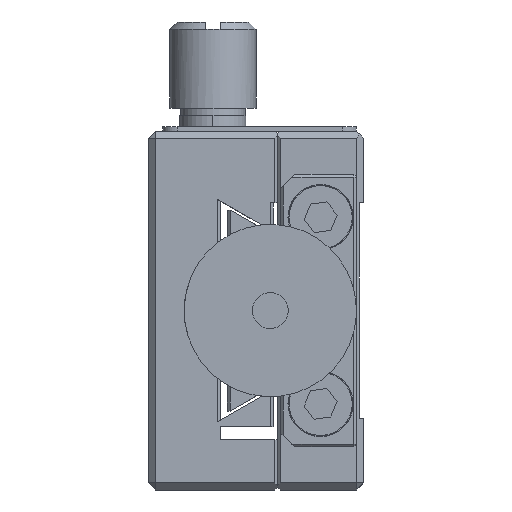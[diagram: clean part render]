
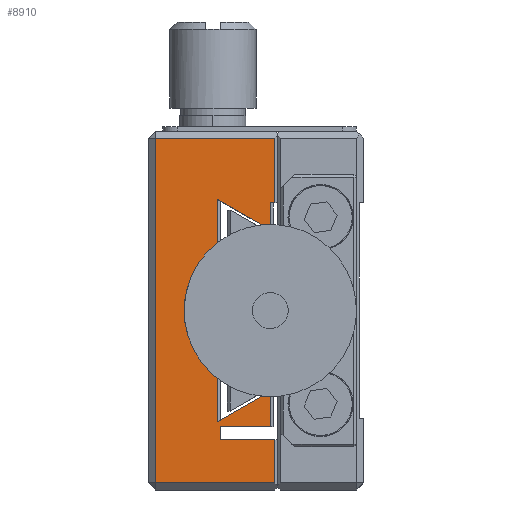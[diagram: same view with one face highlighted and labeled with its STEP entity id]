
A CAD part, left-side view. The second image highlights one B-rep face of the part: STEP entity #8910.
In plain terms, the highlighted planar face has unit normal (-1, 0, 0).
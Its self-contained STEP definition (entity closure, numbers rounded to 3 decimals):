
#412 = EDGE_LOOP ( 'NONE', ( #7363, #1645, #1795, #2207, #2099, #2304, #2128, #2126, #7227, #7311, #1778, #7495, #7222, #1732 ) ) ;
#706 = AXIS2_PLACEMENT_3D ( 'NONE', #5018, #5386, #5385 ) ;
#1497 = VERTEX_POINT ( 'NONE', #4822 ) ;
#1498 = VERTEX_POINT ( 'NONE', #4559 ) ;
#1532 = VERTEX_POINT ( 'NONE', #4561 ) ;
#1583 = VERTEX_POINT ( 'NONE', #4547 ) ;
#1645 = ORIENTED_EDGE ( 'NONE', *, *, #10647, .T. ) ;
#1672 = VERTEX_POINT ( 'NONE', #4600 ) ;
#1732 = ORIENTED_EDGE ( 'NONE', *, *, #10615, .T. ) ;
#1778 = ORIENTED_EDGE ( 'NONE', *, *, #10616, .F. ) ;
#1795 = ORIENTED_EDGE ( 'NONE', *, *, #10873, .F. ) ;
#2099 = ORIENTED_EDGE ( 'NONE', *, *, #10739, .F. ) ;
#2126 = ORIENTED_EDGE ( 'NONE', *, *, #11017, .T. ) ;
#2128 = ORIENTED_EDGE ( 'NONE', *, *, #11016, .T. ) ;
#2207 = ORIENTED_EDGE ( 'NONE', *, *, #11020, .T. ) ;
#2304 = ORIENTED_EDGE ( 'NONE', *, *, #11019, .T. ) ;
#2582 = CARTESIAN_POINT ( 'NONE',  ( -18.252, 10.147, -12. ) ) ;
#2654 = CARTESIAN_POINT ( 'NONE',  ( -18.252, 1.847, 12. ) ) ;
#2668 = CARTESIAN_POINT ( 'NONE',  ( -18.252, 2.147, -8.1 ) ) ;
#2865 = CARTESIAN_POINT ( 'NONE',  ( -18.252, 5.847, -7.752 ) ) ;
#2922 = CARTESIAN_POINT ( 'NONE',  ( -18.252, 1.847, -9. ) ) ;
#2924 = CARTESIAN_POINT ( 'NONE',  ( -18.252, 5.647, -9. ) ) ;
#2931 = CARTESIAN_POINT ( 'NONE',  ( -18.252, 5.647, -8.1 ) ) ;
#2936 = CARTESIAN_POINT ( 'NONE',  ( -18.252, 2.147, -5.615 ) ) ;
#2994 = CARTESIAN_POINT ( 'NONE',  ( -18.252, 10.147, 12. ) ) ;
#3307 = LINE ( 'NONE', #12405, #3337 ) ;
#3337 = VECTOR ( 'NONE', #12400, 1000. ) ;
#3388 = VECTOR ( 'NONE', #11643, 1000. ) ;
#3395 = FACE_OUTER_BOUND ( 'NONE', #412, .T. ) ;
#3947 = LINE ( 'NONE', #11653, #3388 ) ;
#4145 = LINE ( 'NONE', #12219, #4177 ) ;
#4148 = LINE ( 'NONE', #12206, #4166 ) ;
#4166 = VECTOR ( 'NONE', #12204, 1000. ) ;
#4177 = VECTOR ( 'NONE', #12203, 1000. ) ;
#4186 = VECTOR ( 'NONE', #11758, 1000. ) ;
#4210 = LINE ( 'NONE', #11819, #4186 ) ;
#4547 = CARTESIAN_POINT ( 'NONE',  ( -18.252, 1.847, -12. ) ) ;
#4559 = CARTESIAN_POINT ( 'NONE',  ( -18.252, 1.847, 7.5 ) ) ;
#4561 = CARTESIAN_POINT ( 'NONE',  ( -18.252, 2.147, 7.5 ) ) ;
#4600 = CARTESIAN_POINT ( 'NONE',  ( -18.252, 2.147, 5.615 ) ) ;
#4822 = CARTESIAN_POINT ( 'NONE',  ( -18.252, 5.847, 7.752 ) ) ;
#5018 = CARTESIAN_POINT ( 'NONE',  ( -18.252, 1.647, 0. ) ) ;
#5385 = DIRECTION ( 'NONE',  ( 0., 0., 1. ) ) ;
#5386 = DIRECTION ( 'NONE',  ( -1., 0., 0. ) ) ;
#5388 = PLANE ( 'NONE',  #706 ) ;
#6208 = VERTEX_POINT ( 'NONE', #2936 ) ;
#6211 = VERTEX_POINT ( 'NONE', #2924 ) ;
#6212 = VERTEX_POINT ( 'NONE', #2922 ) ;
#6213 = VERTEX_POINT ( 'NONE', #2931 ) ;
#6218 = VERTEX_POINT ( 'NONE', #2668 ) ;
#6232 = VERTEX_POINT ( 'NONE', #2865 ) ;
#6637 = VERTEX_POINT ( 'NONE', #2654 ) ;
#6664 = VERTEX_POINT ( 'NONE', #2582 ) ;
#6868 = VERTEX_POINT ( 'NONE', #2994 ) ;
#7222 = ORIENTED_EDGE ( 'NONE', *, *, #10963, .F. ) ;
#7227 = ORIENTED_EDGE ( 'NONE', *, *, #11132, .T. ) ;
#7311 = ORIENTED_EDGE ( 'NONE', *, *, #11130, .T. ) ;
#7363 = ORIENTED_EDGE ( 'NONE', *, *, #10695, .F. ) ;
#7495 = ORIENTED_EDGE ( 'NONE', *, *, #10530, .F. ) ;
#7623 = DIRECTION ( 'NONE',  ( 0., 1., 0. ) ) ;
#7624 = CARTESIAN_POINT ( 'NONE',  ( -18.252, 5.647, -8.1 ) ) ;
#7753 = VECTOR ( 'NONE', #11907, 1000. ) ;
#7757 = VECTOR ( 'NONE', #11900, 1000. ) ;
#7758 = LINE ( 'NONE', #11895, #7753 ) ;
#7760 = LINE ( 'NONE', #11906, #7757 ) ;
#7762 = VECTOR ( 'NONE', #11886, 1000. ) ;
#7764 = VECTOR ( 'NONE', #11884, 1000. ) ;
#7765 = LINE ( 'NONE', #11885, #7762 ) ;
#7770 = LINE ( 'NONE', #11894, #7764 ) ;
#7963 = VECTOR ( 'NONE', #7623, 1000. ) ;
#7971 = LINE ( 'NONE', #7624, #7963 ) ;
#8109 = LINE ( 'NONE', #9806, #8428 ) ;
#8244 = VECTOR ( 'NONE', #11491, 1000. ) ;
#8249 = LINE ( 'NONE', #11492, #8244 ) ;
#8428 = VECTOR ( 'NONE', #9805, 1000. ) ;
#8562 = VECTOR ( 'NONE', #9796, 1000. ) ;
#8601 = VECTOR ( 'NONE', #11542, 1000. ) ;
#8611 = LINE ( 'NONE', #11551, #8601 ) ;
#8651 = LINE ( 'NONE', #9797, #8562 ) ;
#8910 = ADVANCED_FACE ( 'NONE', ( #3395 ), #5388, .T. ) ;
#9796 = DIRECTION ( 'NONE',  ( 0., 0., 1. ) ) ;
#9797 = CARTESIAN_POINT ( 'NONE',  ( -18.252, 1.847, -9. ) ) ;
#9805 = DIRECTION ( 'NONE',  ( 0., -1., 0. ) ) ;
#9806 = CARTESIAN_POINT ( 'NONE',  ( -18.252, 1.647, -12. ) ) ;
#10530 = EDGE_CURVE ( 'NONE', #6213, #6211, #3307, .T. ) ;
#10615 = EDGE_CURVE ( 'NONE', #6218, #6208, #4148, .T. ) ;
#10616 = EDGE_CURVE ( 'NONE', #6211, #6212, #4145, .T. ) ;
#10647 = EDGE_CURVE ( 'NONE', #6232, #1497, #4210, .T. ) ;
#10695 = EDGE_CURVE ( 'NONE', #6232, #6208, #3947, .T. ) ;
#10739 = EDGE_CURVE ( 'NONE', #1498, #1532, #8611, .T. ) ;
#10873 = EDGE_CURVE ( 'NONE', #1672, #1497, #8249, .T. ) ;
#10963 = EDGE_CURVE ( 'NONE', #6218, #6213, #7971, .T. ) ;
#11016 = EDGE_CURVE ( 'NONE', #6637, #6868, #7770, .T. ) ;
#11017 = EDGE_CURVE ( 'NONE', #6868, #6664, #7765, .T. ) ;
#11019 = EDGE_CURVE ( 'NONE', #1498, #6637, #7760, .T. ) ;
#11020 = EDGE_CURVE ( 'NONE', #1672, #1532, #7758, .T. ) ;
#11130 = EDGE_CURVE ( 'NONE', #1583, #6212, #8651, .T. ) ;
#11132 = EDGE_CURVE ( 'NONE', #6664, #1583, #8109, .T. ) ;
#11491 = DIRECTION ( 'NONE',  ( 0., 0.866, 0.5 ) ) ;
#11492 = CARTESIAN_POINT ( 'NONE',  ( -18.252, 5.647, 7.636 ) ) ;
#11542 = DIRECTION ( 'NONE',  ( 0., 1., 0. ) ) ;
#11551 = CARTESIAN_POINT ( 'NONE',  ( -18.252, 1.947, 7.5 ) ) ;
#11643 = DIRECTION ( 'NONE',  ( 0., -0.866, 0.5 ) ) ;
#11653 = CARTESIAN_POINT ( 'NONE',  ( -18.252, 1.947, -5.5 ) ) ;
#11758 = DIRECTION ( 'NONE',  ( 0., 0., 1. ) ) ;
#11819 = CARTESIAN_POINT ( 'NONE',  ( -18.252, 5.847, 7.636 ) ) ;
#11884 = DIRECTION ( 'NONE',  ( 0., 1., 0. ) ) ;
#11885 = CARTESIAN_POINT ( 'NONE',  ( -18.252, 10.147, -12.5 ) ) ;
#11886 = DIRECTION ( 'NONE',  ( 0., 0., -1. ) ) ;
#11894 = CARTESIAN_POINT ( 'NONE',  ( -18.252, 10.647, 12. ) ) ;
#11895 = CARTESIAN_POINT ( 'NONE',  ( -18.252, 2.147, 7.5 ) ) ;
#11900 = DIRECTION ( 'NONE',  ( 0., 0., 1. ) ) ;
#11906 = CARTESIAN_POINT ( 'NONE',  ( -18.252, 1.847, 12. ) ) ;
#11907 = DIRECTION ( 'NONE',  ( 0., 0., 1. ) ) ;
#12203 = DIRECTION ( 'NONE',  ( 0., -1., 0. ) ) ;
#12204 = DIRECTION ( 'NONE',  ( 0., 0., 1. ) ) ;
#12206 = CARTESIAN_POINT ( 'NONE',  ( -18.252, 2.147, -5.5 ) ) ;
#12219 = CARTESIAN_POINT ( 'NONE',  ( -18.252, 1.647, -9. ) ) ;
#12400 = DIRECTION ( 'NONE',  ( 0., 0., -1. ) ) ;
#12405 = CARTESIAN_POINT ( 'NONE',  ( -18.252, 5.647, -9. ) ) ;
